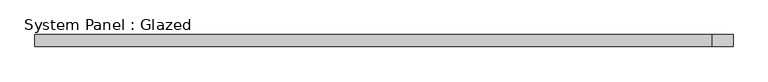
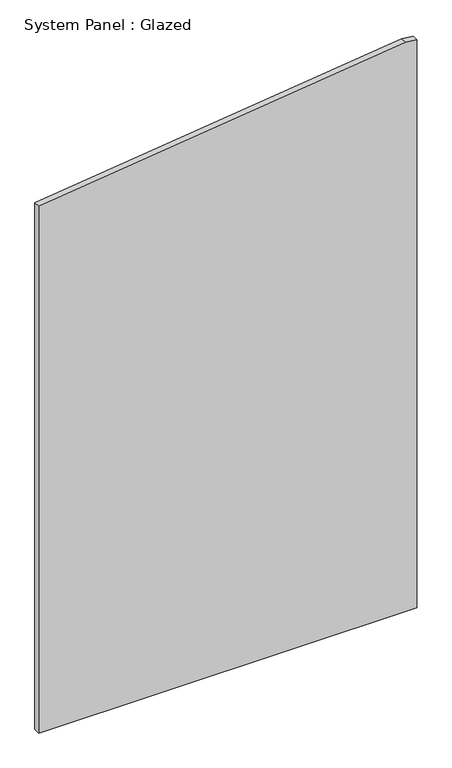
"""IFC4 building model written with IfcOpenShell, lengths in millimetres: plate geometry, System Panel : Glazed."""

from ifc_helpers import new_model, si_unit, frame, origin, place, context, project, spatial, polyline, outline, extrude, source, transform, mapped, element, save


def system_panel_glazed_0e85f418(model_context):
    return source(origin(), model_context, "Body", "SweptSolid", [
        extrude(outline(polyline([(0.0, -726.9631579), (0.0, 726.9631579), (2308.2542781, 726.9631579), (2313.6063925, 683.3736842), (2140.4388026, -726.9631579), (0.0, -726.9631579)])), frame((0.0, 24.5, 0.0), z_axis=(0.0, 1.0, 0.0), x_axis=(0.0, 0.0, 1.0)), (0.0, 0.0, 1.0), 25.0),
    ])


if __name__ == "__main__":
    model = new_model("IFC4")
    model_context = context("Model", 3, world=origin())
    ifc_project = project(units=[si_unit("LENGTHUNIT", "METRE", prefix="MILLI")], contexts=[model_context])
    site = spatial("IfcSite", under=ifc_project)
    building = spatial("IfcBuilding", under=site)
    placement = place(None, origin())
    system_panel_glazed_shape = system_panel_glazed_0e85f418(model_context)
    element("IfcPlate", 1, ObjectType="System Panel : Glazed", at=placement, inside=building, context=model_context, shape_type="MappedRepresentation", body=[
        mapped(system_panel_glazed_shape, transform((0.0, 0.0, 0.0), x_axis=(1.0, 0.0, 0.0), y_axis=(0.0, 1.0, 0.0), z_axis=(0.0, 0.0, 1.0))),
    ])
    save(model, "model.ifc")
